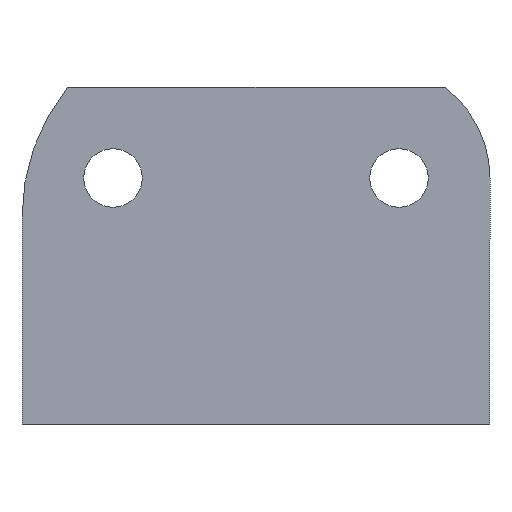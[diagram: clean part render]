
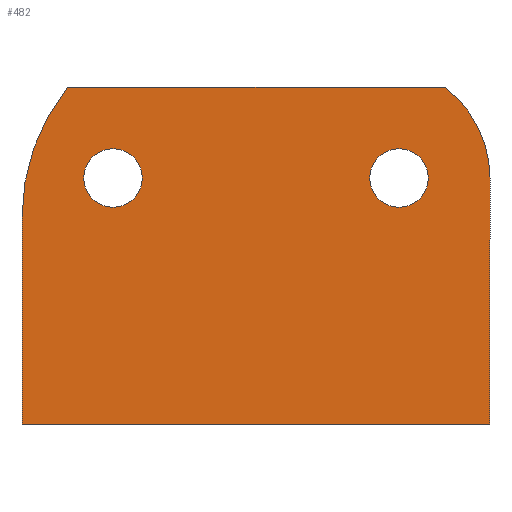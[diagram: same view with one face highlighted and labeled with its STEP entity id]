
A CAD part, front view. The second image highlights one B-rep face of the part: STEP entity #482.
In plain terms, the highlighted planar face has unit normal (0, -1, 0).
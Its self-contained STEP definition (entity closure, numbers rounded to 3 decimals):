
#92 = EDGE_CURVE ( 'NONE', #93, #94, #2278, .T. ) ;
#93 = VERTEX_POINT ( 'NONE', #2262 ) ;
#94 = VERTEX_POINT ( 'NONE', #2261 ) ;
#170 = EDGE_CURVE ( 'NONE', #171, #172, #2203, .T. ) ;
#171 = VERTEX_POINT ( 'NONE', #2518 ) ;
#172 = VERTEX_POINT ( 'NONE', #2517 ) ;
#461 = VERTEX_POINT ( 'NONE', #3321 ) ;
#462 = ORIENTED_EDGE ( 'NONE', *, *, #463, .F. ) ;
#463 = EDGE_CURVE ( 'NONE', #464, #461, #3320, .T. ) ;
#464 = VERTEX_POINT ( 'NONE', #3316 ) ;
#465 = ORIENTED_EDGE ( 'NONE', *, *, #466, .F. ) ;
#466 = EDGE_CURVE ( 'NONE', #467, #464, #3315, .T. ) ;
#467 = VERTEX_POINT ( 'NONE', #3311 ) ;
#468 = ORIENTED_EDGE ( 'NONE', *, *, #469, .F. ) ;
#469 = EDGE_CURVE ( 'NONE', #470, #467, #3310, .T. ) ;
#470 = VERTEX_POINT ( 'NONE', #3305 ) ;
#471 = ORIENTED_EDGE ( 'NONE', *, *, #472, .F. ) ;
#472 = EDGE_CURVE ( 'NONE', #487, #470, #3304, .T. ) ;
#473 = EDGE_LOOP ( 'NONE', ( #474, #529 ) ) ;
#474 = ORIENTED_EDGE ( 'NONE', *, *, #528, .T. ) ;
#482 = ADVANCED_FACE ( 'NONE', ( #3357, #3355, #3396 ), #3395, .F. ) ;
#483 = EDGE_LOOP ( 'NONE', ( #484, #488, #462, #465, #468, #471 ) ) ;
#484 = ORIENTED_EDGE ( 'NONE', *, *, #485, .F. ) ;
#485 = EDGE_CURVE ( 'NONE', #486, #487, #3393, .T. ) ;
#486 = VERTEX_POINT ( 'NONE', #3372 ) ;
#487 = VERTEX_POINT ( 'NONE', #3371 ) ;
#488 = ORIENTED_EDGE ( 'NONE', *, *, #489, .F. ) ;
#489 = EDGE_CURVE ( 'NONE', #461, #486, #3370, .T. ) ;
#528 = EDGE_CURVE ( 'NONE', #94, #93, #3481, .T. ) ;
#529 = ORIENTED_EDGE ( 'NONE', *, *, #92, .T. ) ;
#530 = EDGE_LOOP ( 'NONE', ( #531, #532 ) ) ;
#531 = ORIENTED_EDGE ( 'NONE', *, *, #170, .F. ) ;
#532 = ORIENTED_EDGE ( 'NONE', *, *, #533, .F. ) ;
#533 = EDGE_CURVE ( 'NONE', #172, #171, #3477, .T. ) ;
#2203 = CIRCLE ( 'NONE', #2522, 2.25 ) ;
#2261 = CARTESIAN_POINT ( 'NONE',  ( -11., -6.5, 8.25 ) ) ;
#2262 = CARTESIAN_POINT ( 'NONE',  ( -11., -6.5, 3.75 ) ) ;
#2263 = DIRECTION ( 'NONE',  ( 0., 0., 1. ) ) ;
#2264 = DIRECTION ( 'NONE',  ( 0., 1., 0. ) ) ;
#2276 = CARTESIAN_POINT ( 'NONE',  ( -11., -6.5, 6. ) ) ;
#2277 = AXIS2_PLACEMENT_3D ( 'NONE', #2276, #2264, #2263 ) ;
#2278 = CIRCLE ( 'NONE', #2277, 2.25 ) ;
#2517 = CARTESIAN_POINT ( 'NONE',  ( 11., -6.5, 3.75 ) ) ;
#2518 = CARTESIAN_POINT ( 'NONE',  ( 11., -6.5, 8.25 ) ) ;
#2519 = DIRECTION ( 'NONE',  ( 0., 0., 1. ) ) ;
#2520 = DIRECTION ( 'NONE',  ( 0., -1., 0. ) ) ;
#2521 = CARTESIAN_POINT ( 'NONE',  ( 11., -6.5, 6. ) ) ;
#2522 = AXIS2_PLACEMENT_3D ( 'NONE', #2521, #2520, #2519 ) ;
#3301 = DIRECTION ( 'NONE',  ( 1., 0., 0. ) ) ;
#3302 = VECTOR ( 'NONE', #3301, 1000. ) ;
#3303 = CARTESIAN_POINT ( 'NONE',  ( -14.5, -6.5, 13. ) ) ;
#3304 = LINE ( 'NONE', #3303, #3302 ) ;
#3305 = CARTESIAN_POINT ( 'NONE',  ( 14.5, -6.5, 13. ) ) ;
#3306 = DIRECTION ( 'NONE',  ( 0., 0., -1. ) ) ;
#3307 = DIRECTION ( 'NONE',  ( 0., 1., 0. ) ) ;
#3308 = CARTESIAN_POINT ( 'NONE',  ( 9.25, -6.5, 6. ) ) ;
#3309 = AXIS2_PLACEMENT_3D ( 'NONE', #3308, #3307, #3306 ) ;
#3310 = CIRCLE ( 'NONE', #3309, 8.75 ) ;
#3311 = CARTESIAN_POINT ( 'NONE',  ( 18., -6.5, 6. ) ) ;
#3312 = DIRECTION ( 'NONE',  ( 0., 0., -1. ) ) ;
#3313 = VECTOR ( 'NONE', #3312, 1000. ) ;
#3314 = CARTESIAN_POINT ( 'NONE',  ( 18., -6.5, -13. ) ) ;
#3315 = LINE ( 'NONE', #3314, #3313 ) ;
#3316 = CARTESIAN_POINT ( 'NONE',  ( 18., -6.5, -13. ) ) ;
#3317 = DIRECTION ( 'NONE',  ( -1., 0., 0. ) ) ;
#3318 = VECTOR ( 'NONE', #3317, 1000. ) ;
#3319 = CARTESIAN_POINT ( 'NONE',  ( -18., -6.5, -13. ) ) ;
#3320 = LINE ( 'NONE', #3319, #3318 ) ;
#3321 = CARTESIAN_POINT ( 'NONE',  ( -18., -6.5, -13. ) ) ;
#3355 = FACE_BOUND ( 'NONE', #473, .T. ) ;
#3357 = FACE_OUTER_BOUND ( 'NONE', #483, .T. ) ;
#3367 = DIRECTION ( 'NONE',  ( 0., 0., 1. ) ) ;
#3368 = VECTOR ( 'NONE', #3367, 1000. ) ;
#3369 = CARTESIAN_POINT ( 'NONE',  ( -18., -6.5, 3. ) ) ;
#3370 = LINE ( 'NONE', #3369, #3368 ) ;
#3371 = CARTESIAN_POINT ( 'NONE',  ( -14.5, -6.5, 13. ) ) ;
#3372 = CARTESIAN_POINT ( 'NONE',  ( -18., -6.5, 3. ) ) ;
#3373 = DIRECTION ( 'NONE',  ( 0., 0., 1. ) ) ;
#3374 = DIRECTION ( 'NONE',  ( 0., 1., 0. ) ) ;
#3375 = CARTESIAN_POINT ( 'NONE',  ( -1.964, -6.5, 3. ) ) ;
#3376 = AXIS2_PLACEMENT_3D ( 'NONE', #3375, #3374, #3373 ) ;
#3377 = DIRECTION ( 'NONE',  ( 0., 0., 1. ) ) ;
#3391 = CARTESIAN_POINT ( 'NONE',  ( -1.964, -6.5, 3. ) ) ;
#3392 = AXIS2_PLACEMENT_3D ( 'NONE', #3391, #3394, #3377 ) ;
#3393 = CIRCLE ( 'NONE', #3376, 16.036 ) ;
#3394 = DIRECTION ( 'NONE',  ( 0., 1., 0. ) ) ;
#3395 = PLANE ( 'NONE',  #3392 ) ;
#3396 = FACE_BOUND ( 'NONE', #530, .T. ) ;
#3473 = DIRECTION ( 'NONE',  ( 0., 0., 1. ) ) ;
#3474 = DIRECTION ( 'NONE',  ( 0., -1., 0. ) ) ;
#3475 = CARTESIAN_POINT ( 'NONE',  ( 11., -6.5, 6. ) ) ;
#3476 = AXIS2_PLACEMENT_3D ( 'NONE', #3475, #3474, #3473 ) ;
#3477 = CIRCLE ( 'NONE', #3476, 2.25 ) ;
#3478 = DIRECTION ( 'NONE',  ( 0., 0., 1. ) ) ;
#3479 = DIRECTION ( 'NONE',  ( 0., 1., 0. ) ) ;
#3480 = AXIS2_PLACEMENT_3D ( 'NONE', #3487, #3479, #3478 ) ;
#3481 = CIRCLE ( 'NONE', #3480, 2.25 ) ;
#3487 = CARTESIAN_POINT ( 'NONE',  ( -11., -6.5, 6. ) ) ;
